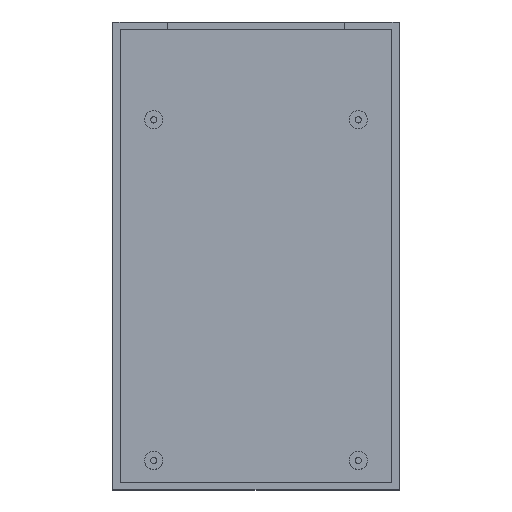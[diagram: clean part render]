
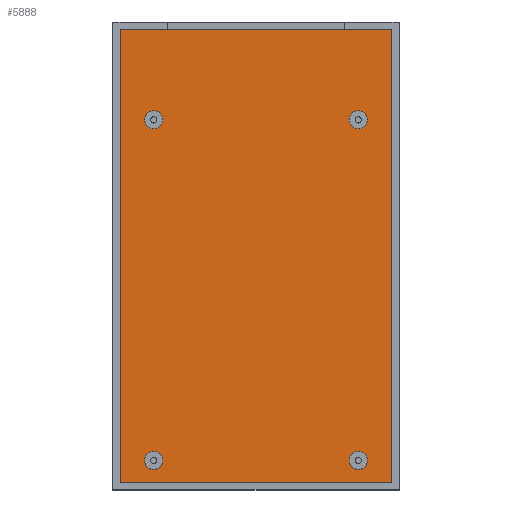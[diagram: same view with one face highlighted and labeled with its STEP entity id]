
A CAD part, top view. The second image highlights one B-rep face of the part: STEP entity #5888.
In plain terms, the highlighted planar face has unit normal (0, 0, 1).
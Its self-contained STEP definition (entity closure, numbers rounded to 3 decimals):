
#1240 = PLANE('',#1241);
#1241 = AXIS2_PLACEMENT_3D('',#1242,#1243,#1244);
#1242 = CARTESIAN_POINT('',(0.,202.8,0.));
#1243 = DIRECTION('',(0.,1.,0.));
#1244 = DIRECTION('',(0.,0.,1.));
#1268 = PLANE('',#1269);
#1269 = AXIS2_PLACEMENT_3D('',#1270,#1271,#1272);
#1270 = CARTESIAN_POINT('',(122.8,0.,0.));
#1271 = DIRECTION('',(1.,0.,0.));
#1272 = DIRECTION('',(0.,0.,1.));
#1296 = PLANE('',#1297);
#1297 = AXIS2_PLACEMENT_3D('',#1298,#1299,#1300);
#1298 = CARTESIAN_POINT('',(0.,3.2,0.));
#1299 = DIRECTION('',(0.,1.,0.));
#1300 = DIRECTION('',(0.,0.,1.));
#1324 = PLANE('',#1325);
#1325 = AXIS2_PLACEMENT_3D('',#1326,#1327,#1328);
#1326 = CARTESIAN_POINT('',(3.2,0.,0.));
#1327 = DIRECTION('',(1.,0.,0.));
#1328 = DIRECTION('',(0.,0.,1.));
#4028 = VERTEX_POINT('',#4029);
#4029 = CARTESIAN_POINT('',(122.8,202.8,3.2));
#4050 = EDGE_CURVE('',#4051,#4028,#4053,.T.);
#4051 = VERTEX_POINT('',#4052);
#4052 = CARTESIAN_POINT('',(3.2,202.8,3.2));
#4053 = SURFACE_CURVE('',#4054,(#4058,#4065),.PCURVE_S1.);
#4054 = LINE('',#4055,#4056);
#4055 = CARTESIAN_POINT('',(3.2,202.8,3.2));
#4056 = VECTOR('',#4057,1.);
#4057 = DIRECTION('',(1.,0.,0.));
#4058 = PCURVE('',#1240,#4059);
#4059 = DEFINITIONAL_REPRESENTATION('',(#4060),#4064);
#4060 = LINE('',#4061,#4062);
#4061 = CARTESIAN_POINT('',(3.2,3.2));
#4062 = VECTOR('',#4063,1.);
#4063 = DIRECTION('',(0.,1.));
#4064 = ( GEOMETRIC_REPRESENTATION_CONTEXT(2) 
PARAMETRIC_REPRESENTATION_CONTEXT() REPRESENTATION_CONTEXT('2D SPACE',''
  ) );
#4065 = PCURVE('',#4066,#4071);
#4066 = PLANE('',#4067);
#4067 = AXIS2_PLACEMENT_3D('',#4068,#4069,#4070);
#4068 = CARTESIAN_POINT('',(0.,0.,3.2));
#4069 = DIRECTION('',(0.,0.,1.));
#4070 = DIRECTION('',(1.,0.,0.));
#4071 = DEFINITIONAL_REPRESENTATION('',(#4072),#4076);
#4072 = LINE('',#4073,#4074);
#4073 = CARTESIAN_POINT('',(3.2,202.8));
#4074 = VECTOR('',#4075,1.);
#4075 = DIRECTION('',(1.,0.));
#4076 = ( GEOMETRIC_REPRESENTATION_CONTEXT(2) 
PARAMETRIC_REPRESENTATION_CONTEXT() REPRESENTATION_CONTEXT('2D SPACE',''
  ) );
#4208 = VERTEX_POINT('',#4209);
#4209 = CARTESIAN_POINT('',(122.8,3.2,3.2));
#4228 = EDGE_CURVE('',#4208,#4028,#4229,.T.);
#4229 = SURFACE_CURVE('',#4230,(#4234,#4240),.PCURVE_S1.);
#4230 = LINE('',#4231,#4232);
#4231 = CARTESIAN_POINT('',(122.8,0.,3.2));
#4232 = VECTOR('',#4233,1.);
#4233 = DIRECTION('',(0.,1.,0.));
#4234 = PCURVE('',#1268,#4235);
#4235 = DEFINITIONAL_REPRESENTATION('',(#4236),#4239);
#4236 = B_SPLINE_CURVE_WITH_KNOTS('',1,(#4237,#4238),.UNSPECIFIED.,.F.,
  .F.,(2,2),(0.,206.),.PIECEWISE_BEZIER_KNOTS.);
#4237 = CARTESIAN_POINT('',(3.2,0.));
#4238 = CARTESIAN_POINT('',(3.2,-206.));
#4239 = ( GEOMETRIC_REPRESENTATION_CONTEXT(2) 
PARAMETRIC_REPRESENTATION_CONTEXT() REPRESENTATION_CONTEXT('2D SPACE',''
  ) );
#4240 = PCURVE('',#4066,#4241);
#4241 = DEFINITIONAL_REPRESENTATION('',(#4242),#4245);
#4242 = B_SPLINE_CURVE_WITH_KNOTS('',1,(#4243,#4244),.UNSPECIFIED.,.F.,
  .F.,(2,2),(0.,206.),.PIECEWISE_BEZIER_KNOTS.);
#4243 = CARTESIAN_POINT('',(122.8,0.));
#4244 = CARTESIAN_POINT('',(122.8,206.));
#4245 = ( GEOMETRIC_REPRESENTATION_CONTEXT(2) 
PARAMETRIC_REPRESENTATION_CONTEXT() REPRESENTATION_CONTEXT('2D SPACE',''
  ) );
#4874 = EDGE_CURVE('',#4208,#4875,#4877,.T.);
#4875 = VERTEX_POINT('',#4876);
#4876 = CARTESIAN_POINT('',(3.2,3.2,3.2));
#4877 = SURFACE_CURVE('',#4878,(#4882,#4888),.PCURVE_S1.);
#4878 = LINE('',#4879,#4880);
#4879 = CARTESIAN_POINT('',(0.,3.2,3.2));
#4880 = VECTOR('',#4881,1.);
#4881 = DIRECTION('',(-1.,0.,0.));
#4882 = PCURVE('',#1296,#4883);
#4883 = DEFINITIONAL_REPRESENTATION('',(#4884),#4887);
#4884 = B_SPLINE_CURVE_WITH_KNOTS('',1,(#4885,#4886),.UNSPECIFIED.,.F.,
  .F.,(2,2),(-122.8,-3.2),.PIECEWISE_BEZIER_KNOTS.);
#4885 = CARTESIAN_POINT('',(3.2,122.8));
#4886 = CARTESIAN_POINT('',(3.2,3.2));
#4887 = ( GEOMETRIC_REPRESENTATION_CONTEXT(2) 
PARAMETRIC_REPRESENTATION_CONTEXT() REPRESENTATION_CONTEXT('2D SPACE',''
  ) );
#4888 = PCURVE('',#4066,#4889);
#4889 = DEFINITIONAL_REPRESENTATION('',(#4890),#4893);
#4890 = B_SPLINE_CURVE_WITH_KNOTS('',1,(#4891,#4892),.UNSPECIFIED.,.F.,
  .F.,(2,2),(-122.8,-3.2),.PIECEWISE_BEZIER_KNOTS.);
#4891 = CARTESIAN_POINT('',(122.8,3.2));
#4892 = CARTESIAN_POINT('',(3.2,3.2));
#4893 = ( GEOMETRIC_REPRESENTATION_CONTEXT(2) 
PARAMETRIC_REPRESENTATION_CONTEXT() REPRESENTATION_CONTEXT('2D SPACE',''
  ) );
#4924 = EDGE_CURVE('',#4875,#4051,#4925,.T.);
#4925 = SURFACE_CURVE('',#4926,(#4930,#4936),.PCURVE_S1.);
#4926 = LINE('',#4927,#4928);
#4927 = CARTESIAN_POINT('',(3.2,0.,3.2));
#4928 = VECTOR('',#4929,1.);
#4929 = DIRECTION('',(0.,1.,0.));
#4930 = PCURVE('',#1324,#4931);
#4931 = DEFINITIONAL_REPRESENTATION('',(#4932),#4935);
#4932 = B_SPLINE_CURVE_WITH_KNOTS('',1,(#4933,#4934),.UNSPECIFIED.,.F.,
  .F.,(2,2),(0.,206.),.PIECEWISE_BEZIER_KNOTS.);
#4933 = CARTESIAN_POINT('',(3.2,0.));
#4934 = CARTESIAN_POINT('',(3.2,-206.));
#4935 = ( GEOMETRIC_REPRESENTATION_CONTEXT(2) 
PARAMETRIC_REPRESENTATION_CONTEXT() REPRESENTATION_CONTEXT('2D SPACE',''
  ) );
#4936 = PCURVE('',#4066,#4937);
#4937 = DEFINITIONAL_REPRESENTATION('',(#4938),#4941);
#4938 = B_SPLINE_CURVE_WITH_KNOTS('',1,(#4939,#4940),.UNSPECIFIED.,.F.,
  .F.,(2,2),(0.,206.),.PIECEWISE_BEZIER_KNOTS.);
#4939 = CARTESIAN_POINT('',(3.2,0.));
#4940 = CARTESIAN_POINT('',(3.2,206.));
#4941 = ( GEOMETRIC_REPRESENTATION_CONTEXT(2) 
PARAMETRIC_REPRESENTATION_CONTEXT() REPRESENTATION_CONTEXT('2D SPACE',''
  ) );
#5888 = ADVANCED_FACE('',(#5889,#5895,#5926,#5957,#5988),#4066,.T.);
#5889 = FACE_BOUND('',#5890,.T.);
#5890 = EDGE_LOOP('',(#5891,#5892,#5893,#5894));
#5891 = ORIENTED_EDGE('',*,*,#4050,.F.);
#5892 = ORIENTED_EDGE('',*,*,#4924,.F.);
#5893 = ORIENTED_EDGE('',*,*,#4874,.F.);
#5894 = ORIENTED_EDGE('',*,*,#4228,.T.);
#5895 = FACE_BOUND('',#5896,.T.);
#5896 = EDGE_LOOP('',(#5897));
#5897 = ORIENTED_EDGE('',*,*,#5898,.F.);
#5898 = EDGE_CURVE('',#5899,#5899,#5901,.T.);
#5899 = VERTEX_POINT('',#5900);
#5900 = CARTESIAN_POINT('',(22.,13.,3.2));
#5901 = SURFACE_CURVE('',#5902,(#5907,#5914),.PCURVE_S1.);
#5902 = CIRCLE('',#5903,4.);
#5903 = AXIS2_PLACEMENT_3D('',#5904,#5905,#5906);
#5904 = CARTESIAN_POINT('',(18.,13.,3.2));
#5905 = DIRECTION('',(0.,0.,1.));
#5906 = DIRECTION('',(1.,0.,0.));
#5907 = PCURVE('',#4066,#5908);
#5908 = DEFINITIONAL_REPRESENTATION('',(#5909),#5913);
#5909 = CIRCLE('',#5910,4.);
#5910 = AXIS2_PLACEMENT_2D('',#5911,#5912);
#5911 = CARTESIAN_POINT('',(18.,13.));
#5912 = DIRECTION('',(1.,0.));
#5913 = ( GEOMETRIC_REPRESENTATION_CONTEXT(2) 
PARAMETRIC_REPRESENTATION_CONTEXT() REPRESENTATION_CONTEXT('2D SPACE',''
  ) );
#5914 = PCURVE('',#5915,#5920);
#5915 = CYLINDRICAL_SURFACE('',#5916,4.);
#5916 = AXIS2_PLACEMENT_3D('',#5917,#5918,#5919);
#5917 = CARTESIAN_POINT('',(18.,13.,3.2));
#5918 = DIRECTION('',(-0.,-0.,-1.));
#5919 = DIRECTION('',(1.,0.,0.));
#5920 = DEFINITIONAL_REPRESENTATION('',(#5921),#5925);
#5921 = LINE('',#5922,#5923);
#5922 = CARTESIAN_POINT('',(-0.,0.));
#5923 = VECTOR('',#5924,1.);
#5924 = DIRECTION('',(-1.,0.));
#5925 = ( GEOMETRIC_REPRESENTATION_CONTEXT(2) 
PARAMETRIC_REPRESENTATION_CONTEXT() REPRESENTATION_CONTEXT('2D SPACE',''
  ) );
#5926 = FACE_BOUND('',#5927,.T.);
#5927 = EDGE_LOOP('',(#5928));
#5928 = ORIENTED_EDGE('',*,*,#5929,.F.);
#5929 = EDGE_CURVE('',#5930,#5930,#5932,.T.);
#5930 = VERTEX_POINT('',#5931);
#5931 = CARTESIAN_POINT('',(112.,13.,3.2));
#5932 = SURFACE_CURVE('',#5933,(#5938,#5945),.PCURVE_S1.);
#5933 = CIRCLE('',#5934,4.);
#5934 = AXIS2_PLACEMENT_3D('',#5935,#5936,#5937);
#5935 = CARTESIAN_POINT('',(108.,13.,3.2));
#5936 = DIRECTION('',(0.,0.,1.));
#5937 = DIRECTION('',(1.,0.,0.));
#5938 = PCURVE('',#4066,#5939);
#5939 = DEFINITIONAL_REPRESENTATION('',(#5940),#5944);
#5940 = CIRCLE('',#5941,4.);
#5941 = AXIS2_PLACEMENT_2D('',#5942,#5943);
#5942 = CARTESIAN_POINT('',(108.,13.));
#5943 = DIRECTION('',(1.,0.));
#5944 = ( GEOMETRIC_REPRESENTATION_CONTEXT(2) 
PARAMETRIC_REPRESENTATION_CONTEXT() REPRESENTATION_CONTEXT('2D SPACE',''
  ) );
#5945 = PCURVE('',#5946,#5951);
#5946 = CYLINDRICAL_SURFACE('',#5947,4.);
#5947 = AXIS2_PLACEMENT_3D('',#5948,#5949,#5950);
#5948 = CARTESIAN_POINT('',(108.,13.,3.2));
#5949 = DIRECTION('',(-0.,-0.,-1.));
#5950 = DIRECTION('',(1.,0.,0.));
#5951 = DEFINITIONAL_REPRESENTATION('',(#5952),#5956);
#5952 = LINE('',#5953,#5954);
#5953 = CARTESIAN_POINT('',(-0.,0.));
#5954 = VECTOR('',#5955,1.);
#5955 = DIRECTION('',(-1.,0.));
#5956 = ( GEOMETRIC_REPRESENTATION_CONTEXT(2) 
PARAMETRIC_REPRESENTATION_CONTEXT() REPRESENTATION_CONTEXT('2D SPACE',''
  ) );
#5957 = FACE_BOUND('',#5958,.T.);
#5958 = EDGE_LOOP('',(#5959));
#5959 = ORIENTED_EDGE('',*,*,#5960,.F.);
#5960 = EDGE_CURVE('',#5961,#5961,#5963,.T.);
#5961 = VERTEX_POINT('',#5962);
#5962 = CARTESIAN_POINT('',(22.,163.,3.2));
#5963 = SURFACE_CURVE('',#5964,(#5969,#5976),.PCURVE_S1.);
#5964 = CIRCLE('',#5965,4.);
#5965 = AXIS2_PLACEMENT_3D('',#5966,#5967,#5968);
#5966 = CARTESIAN_POINT('',(18.,163.,3.2));
#5967 = DIRECTION('',(0.,0.,1.));
#5968 = DIRECTION('',(1.,0.,0.));
#5969 = PCURVE('',#4066,#5970);
#5970 = DEFINITIONAL_REPRESENTATION('',(#5971),#5975);
#5971 = CIRCLE('',#5972,4.);
#5972 = AXIS2_PLACEMENT_2D('',#5973,#5974);
#5973 = CARTESIAN_POINT('',(18.,163.));
#5974 = DIRECTION('',(1.,0.));
#5975 = ( GEOMETRIC_REPRESENTATION_CONTEXT(2) 
PARAMETRIC_REPRESENTATION_CONTEXT() REPRESENTATION_CONTEXT('2D SPACE',''
  ) );
#5976 = PCURVE('',#5977,#5982);
#5977 = CYLINDRICAL_SURFACE('',#5978,4.);
#5978 = AXIS2_PLACEMENT_3D('',#5979,#5980,#5981);
#5979 = CARTESIAN_POINT('',(18.,163.,3.2));
#5980 = DIRECTION('',(-0.,-0.,-1.));
#5981 = DIRECTION('',(1.,0.,0.));
#5982 = DEFINITIONAL_REPRESENTATION('',(#5983),#5987);
#5983 = LINE('',#5984,#5985);
#5984 = CARTESIAN_POINT('',(-0.,0.));
#5985 = VECTOR('',#5986,1.);
#5986 = DIRECTION('',(-1.,0.));
#5987 = ( GEOMETRIC_REPRESENTATION_CONTEXT(2) 
PARAMETRIC_REPRESENTATION_CONTEXT() REPRESENTATION_CONTEXT('2D SPACE',''
  ) );
#5988 = FACE_BOUND('',#5989,.T.);
#5989 = EDGE_LOOP('',(#5990));
#5990 = ORIENTED_EDGE('',*,*,#5991,.F.);
#5991 = EDGE_CURVE('',#5992,#5992,#5994,.T.);
#5992 = VERTEX_POINT('',#5993);
#5993 = CARTESIAN_POINT('',(112.,163.,3.2));
#5994 = SURFACE_CURVE('',#5995,(#6000,#6007),.PCURVE_S1.);
#5995 = CIRCLE('',#5996,4.);
#5996 = AXIS2_PLACEMENT_3D('',#5997,#5998,#5999);
#5997 = CARTESIAN_POINT('',(108.,163.,3.2));
#5998 = DIRECTION('',(0.,0.,1.));
#5999 = DIRECTION('',(1.,0.,0.));
#6000 = PCURVE('',#4066,#6001);
#6001 = DEFINITIONAL_REPRESENTATION('',(#6002),#6006);
#6002 = CIRCLE('',#6003,4.);
#6003 = AXIS2_PLACEMENT_2D('',#6004,#6005);
#6004 = CARTESIAN_POINT('',(108.,163.));
#6005 = DIRECTION('',(1.,0.));
#6006 = ( GEOMETRIC_REPRESENTATION_CONTEXT(2) 
PARAMETRIC_REPRESENTATION_CONTEXT() REPRESENTATION_CONTEXT('2D SPACE',''
  ) );
#6007 = PCURVE('',#6008,#6013);
#6008 = CYLINDRICAL_SURFACE('',#6009,4.);
#6009 = AXIS2_PLACEMENT_3D('',#6010,#6011,#6012);
#6010 = CARTESIAN_POINT('',(108.,163.,3.2));
#6011 = DIRECTION('',(-0.,-0.,-1.));
#6012 = DIRECTION('',(1.,0.,0.));
#6013 = DEFINITIONAL_REPRESENTATION('',(#6014),#6018);
#6014 = LINE('',#6015,#6016);
#6015 = CARTESIAN_POINT('',(-0.,0.));
#6016 = VECTOR('',#6017,1.);
#6017 = DIRECTION('',(-1.,0.));
#6018 = ( GEOMETRIC_REPRESENTATION_CONTEXT(2) 
PARAMETRIC_REPRESENTATION_CONTEXT() REPRESENTATION_CONTEXT('2D SPACE',''
  ) );
